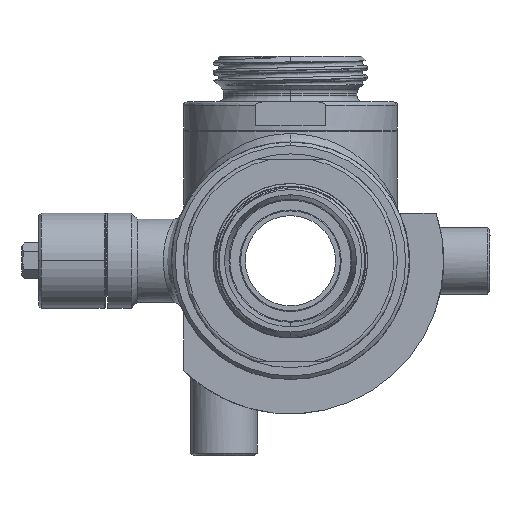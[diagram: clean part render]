
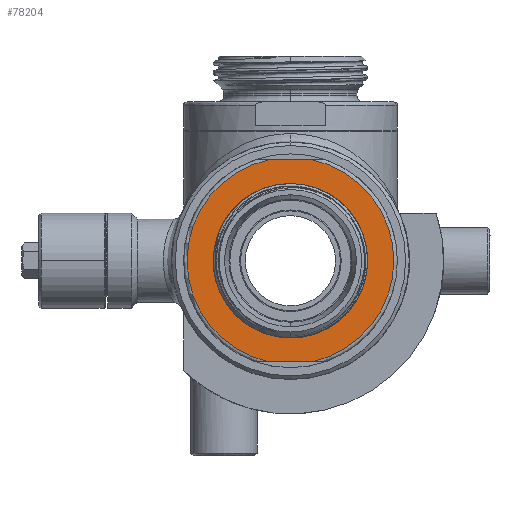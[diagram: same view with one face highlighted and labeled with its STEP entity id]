
A CAD part, left-side view. The second image highlights one B-rep face of the part: STEP entity #78204.
In plain terms, the highlighted planar face has unit normal (-1, 0, 0).
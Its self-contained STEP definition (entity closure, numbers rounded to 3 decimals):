
#23629=CARTESIAN_POINT('',(-67.,0.,0.));
#23630=DIRECTION('',(-1.,0.,0.));
#23631=DIRECTION('',(0.,0.,-1.));
#23632=AXIS2_PLACEMENT_3D('',#23629,#23630,#23631);
#23645=DIRECTION('',(0.,-1.,0.));
#23646=VECTOR('',#23645,18.547);
#23647=CARTESIAN_POINT('',(-67.,9.274,42.5));
#23648=LINE('',#23647,#23646);
#23652=DIRECTION('',(0.,-1.,0.));
#23653=VECTOR('',#23652,18.547);
#23654=CARTESIAN_POINT('',(-67.,9.274,-42.5));
#23655=LINE('',#23654,#23653);
#23696=CARTESIAN_POINT('',(-67.,9.274,42.5));
#23724=CARTESIAN_POINT('',(-67.,0.,0.));
#23725=DIRECTION('',(-1.,0.,0.));
#23726=DIRECTION('',(0.,0.213,0.977));
#23727=AXIS2_PLACEMENT_3D('',#23724,#23725,#23726);
#23732=CARTESIAN_POINT('',(-67.,9.274,-42.5));
#23852=CARTESIAN_POINT('',(-67.,-9.274,-42.5));
#23880=CARTESIAN_POINT('',(-67.,0.,0.));
#23881=DIRECTION('',(-1.,0.,0.));
#23882=DIRECTION('',(0.,-0.213,-0.977));
#23883=AXIS2_PLACEMENT_3D('',#23880,#23881,#23882);
#23888=CARTESIAN_POINT('',(-67.,-9.274,42.5));
#23937=CARTESIAN_POINT('',(-67.,0.,0.));
#23938=DIRECTION('',(-1.,0.,0.));
#23939=DIRECTION('',(0.,0.,1.));
#23940=AXIS2_PLACEMENT_3D('',#23937,#23938,#23939);
#57139=CARTESIAN_POINT('',(-67.,0.,-30.5));
#57140=CARTESIAN_POINT('',(-67.,0.,30.5));
#57141=VERTEX_POINT('',#57139);
#57142=VERTEX_POINT('',#57140);
#57191=VERTEX_POINT('',#23888);
#57194=VERTEX_POINT('',#23852);
#57199=VERTEX_POINT('',#23732);
#57202=VERTEX_POINT('',#23696);
#78184=CARTESIAN_POINT('',(-67.,0.,0.));
#78185=DIRECTION('',(-1.,0.,0.));
#78186=DIRECTION('',(0.,-1.,0.));
#78187=AXIS2_PLACEMENT_3D('',#78184,#78185,#78186);
#78188=PLANE('',#78187);
#78190=ORIENTED_EDGE('',*,*,#78189,.T.);
#78192=ORIENTED_EDGE('',*,*,#78191,.F.);
#78194=ORIENTED_EDGE('',*,*,#78193,.F.);
#78196=ORIENTED_EDGE('',*,*,#78195,.F.);
#78197=EDGE_LOOP('',(#78190,#78192,#78194,#78196));
#78198=FACE_OUTER_BOUND('',#78197,.F.);
#78199=ORIENTED_EDGE('',*,*,#78174,.T.);
#78201=ORIENTED_EDGE('',*,*,#78200,.T.);
#78202=EDGE_LOOP('',(#78199,#78201));
#78203=FACE_BOUND('',#78202,.F.);
#78204=ADVANCED_FACE('',(#78198,#78203),#78188,.T.);
#23633=CIRCLE('',#23632,30.5);
#23728=CIRCLE('',#23727,43.5);
#23884=CIRCLE('',#23883,43.5);
#23941=CIRCLE('',#23940,30.5);
#78174=EDGE_CURVE('',#57141,#57142,#23633,.T.);
#78189=EDGE_CURVE('',#57202,#57191,#23648,.T.);
#78191=EDGE_CURVE('',#57194,#57191,#23884,.T.);
#78193=EDGE_CURVE('',#57199,#57194,#23655,.T.);
#78195=EDGE_CURVE('',#57202,#57199,#23728,.T.);
#78200=EDGE_CURVE('',#57142,#57141,#23941,.T.);
